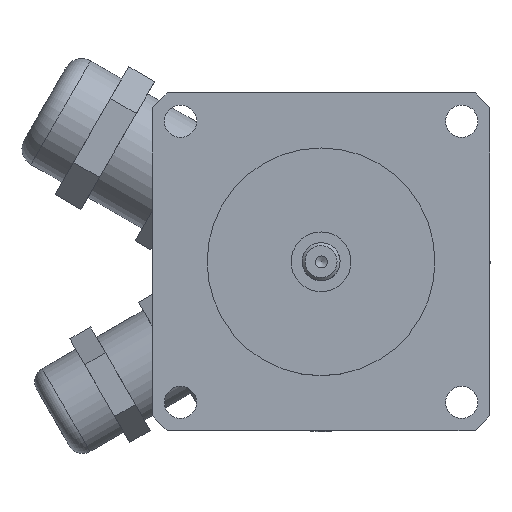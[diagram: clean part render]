
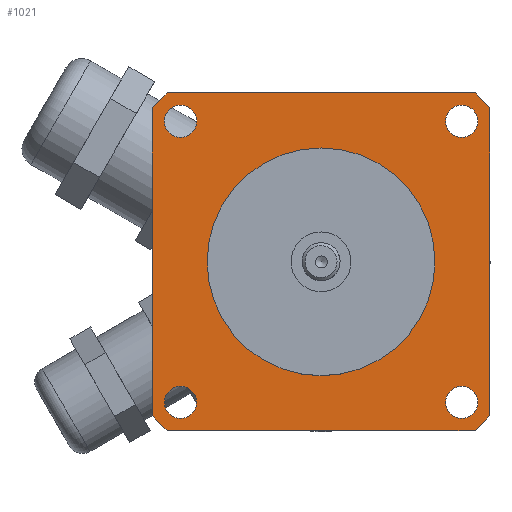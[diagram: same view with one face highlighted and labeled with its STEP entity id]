
A CAD part, top view. The second image highlights one B-rep face of the part: STEP entity #1021.
In plain terms, the highlighted planar face has unit normal (0, 0, 1).
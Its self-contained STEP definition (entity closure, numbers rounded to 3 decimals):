
#625=CARTESIAN_POINT('',(19.05,0.,42.7));
#626=VERTEX_POINT('',#625);
#627=CARTESIAN_POINT('',(0.,0.,42.7));
#628=DIRECTION('',(0.0,0.0,-1.0));
#629=DIRECTION('',(-1.0,0.0,0.0));
#630=AXIS2_PLACEMENT_3D('',#627,#628,#629);
#631=CIRCLE('',#630,19.05);
#632=EDGE_CURVE('',#626,#626,#631,.T.);
#675=CARTESIAN_POINT('',(26.211,23.511,42.7));
#676=VERTEX_POINT('',#675);
#677=CARTESIAN_POINT('',(23.511,23.511,42.7));
#678=DIRECTION('',(0.0,0.0,-1.0));
#679=DIRECTION('',(-1.0,0.0,0.0));
#680=AXIS2_PLACEMENT_3D('',#677,#678,#679);
#681=CIRCLE('',#680,2.7);
#682=EDGE_CURVE('',#676,#676,#681,.T.);
#695=CARTESIAN_POINT('',(26.211,-23.511,42.7));
#696=VERTEX_POINT('',#695);
#697=CARTESIAN_POINT('',(23.511,-23.511,42.7));
#698=DIRECTION('',(0.0,0.0,-1.0));
#699=DIRECTION('',(-1.0,0.0,0.0));
#700=AXIS2_PLACEMENT_3D('',#697,#698,#699);
#701=CIRCLE('',#700,2.7);
#702=EDGE_CURVE('',#696,#696,#701,.T.);
#715=CARTESIAN_POINT('',(-20.811,23.511,42.7));
#716=VERTEX_POINT('',#715);
#717=CARTESIAN_POINT('',(-23.511,23.511,42.7));
#718=DIRECTION('',(0.0,0.0,-1.0));
#719=DIRECTION('',(-1.0,0.0,0.0));
#720=AXIS2_PLACEMENT_3D('',#717,#718,#719);
#721=CIRCLE('',#720,2.7);
#722=EDGE_CURVE('',#716,#716,#721,.T.);
#735=CARTESIAN_POINT('',(-20.811,-23.511,42.7));
#736=VERTEX_POINT('',#735);
#737=CARTESIAN_POINT('',(-23.511,-23.511,42.7));
#738=DIRECTION('',(0.0,0.0,-1.0));
#739=DIRECTION('',(-1.0,0.0,0.0));
#740=AXIS2_PLACEMENT_3D('',#737,#738,#739);
#741=CIRCLE('',#740,2.7);
#742=EDGE_CURVE('',#736,#736,#741,.T.);
#755=CARTESIAN_POINT('',(25.75,28.25,42.7));
#756=VERTEX_POINT('',#755);
#757=CARTESIAN_POINT('',(28.25,25.75,42.7));
#758=VERTEX_POINT('',#757);
#759=CARTESIAN_POINT('',(25.75,28.25,42.7));
#760=DIRECTION('',(0.707,-0.707,0.0));
#761=VECTOR('',#760,3.536);
#762=LINE('',#759,#761);
#763=EDGE_CURVE('',#756,#758,#762,.T.);
#786=CARTESIAN_POINT('',(28.25,-25.75,42.7));
#787=VERTEX_POINT('',#786);
#788=CARTESIAN_POINT('',(28.25,25.75,42.7));
#789=DIRECTION('',(0.0,-1.0,0.0));
#790=VECTOR('',#789,51.5);
#791=LINE('',#788,#790);
#792=EDGE_CURVE('',#758,#787,#791,.T.);
#826=CARTESIAN_POINT('',(25.75,-28.25,42.7));
#827=VERTEX_POINT('',#826);
#828=CARTESIAN_POINT('',(28.25,-25.75,42.7));
#829=DIRECTION('',(-0.707,-0.707,0.0));
#830=VECTOR('',#829,3.536);
#831=LINE('',#828,#830);
#832=EDGE_CURVE('',#787,#827,#831,.T.);
#850=CARTESIAN_POINT('',(-25.75,-28.25,42.7));
#851=VERTEX_POINT('',#850);
#852=CARTESIAN_POINT('',(25.75,-28.25,42.7));
#853=DIRECTION('',(-1.0,0.0,0.0));
#854=VECTOR('',#853,51.5);
#855=LINE('',#852,#854);
#856=EDGE_CURVE('',#827,#851,#855,.T.);
#881=CARTESIAN_POINT('',(-28.25,-25.75,42.7));
#882=VERTEX_POINT('',#881);
#883=CARTESIAN_POINT('',(-25.75,-28.25,42.7));
#884=DIRECTION('',(-0.707,0.707,0.0));
#885=VECTOR('',#884,3.536);
#886=LINE('',#883,#885);
#887=EDGE_CURVE('',#851,#882,#886,.T.);
#905=CARTESIAN_POINT('',(-28.25,25.75,42.7));
#906=VERTEX_POINT('',#905);
#907=CARTESIAN_POINT('',(-28.25,-25.75,42.7));
#908=DIRECTION('',(0.0,1.0,0.0));
#909=VECTOR('',#908,51.5);
#910=LINE('',#907,#909);
#911=EDGE_CURVE('',#882,#906,#910,.T.);
#936=CARTESIAN_POINT('',(-25.75,28.25,42.7));
#937=VERTEX_POINT('',#936);
#938=CARTESIAN_POINT('',(-28.25,25.75,42.7));
#939=DIRECTION('',(0.707,0.707,0.0));
#940=VECTOR('',#939,3.536);
#941=LINE('',#938,#940);
#942=EDGE_CURVE('',#906,#937,#941,.T.);
#960=CARTESIAN_POINT('',(-25.75,28.25,42.7));
#961=DIRECTION('',(1.0,0.0,0.0));
#962=VECTOR('',#961,51.5);
#963=LINE('',#960,#962);
#964=EDGE_CURVE('',#937,#756,#963,.T.);
#991=CARTESIAN_POINT('',(0.,0.,42.7));
#992=DIRECTION('',(0.0,0.0,1.0));
#993=DIRECTION('',(1.0,0.0,0.0));
#994=AXIS2_PLACEMENT_3D('',#991,#992,#993);
#995=PLANE('',#994);
#996=ORIENTED_EDGE('',*,*,#763,.F.);
#997=ORIENTED_EDGE('',*,*,#964,.F.);
#998=ORIENTED_EDGE('',*,*,#942,.F.);
#999=ORIENTED_EDGE('',*,*,#911,.F.);
#1000=ORIENTED_EDGE('',*,*,#887,.F.);
#1001=ORIENTED_EDGE('',*,*,#856,.F.);
#1002=ORIENTED_EDGE('',*,*,#832,.F.);
#1003=ORIENTED_EDGE('',*,*,#792,.F.);
#1004=EDGE_LOOP('',(#996,#997,#998,#999,#1000,#1001,#1002,#1003));
#1005=FACE_OUTER_BOUND('',#1004,.T.);
#1006=ORIENTED_EDGE('',*,*,#632,.T.);
#1007=EDGE_LOOP('',(#1006));
#1008=FACE_BOUND('',#1007,.T.);
#1009=ORIENTED_EDGE('',*,*,#682,.T.);
#1010=EDGE_LOOP('',(#1009));
#1011=FACE_BOUND('',#1010,.T.);
#1012=ORIENTED_EDGE('',*,*,#702,.T.);
#1013=EDGE_LOOP('',(#1012));
#1014=FACE_BOUND('',#1013,.T.);
#1015=ORIENTED_EDGE('',*,*,#722,.T.);
#1016=EDGE_LOOP('',(#1015));
#1017=FACE_BOUND('',#1016,.T.);
#1018=ORIENTED_EDGE('',*,*,#742,.T.);
#1019=EDGE_LOOP('',(#1018));
#1020=FACE_BOUND('',#1019,.T.);
#1021=ADVANCED_FACE('',(#1005,#1008,#1011,#1014,#1017,#1020),#995,.T.);
